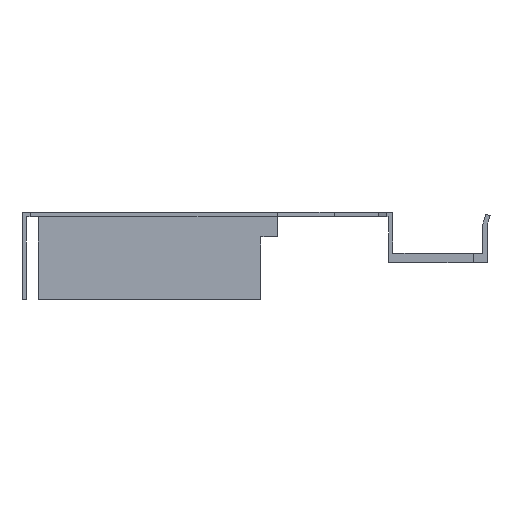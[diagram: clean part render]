
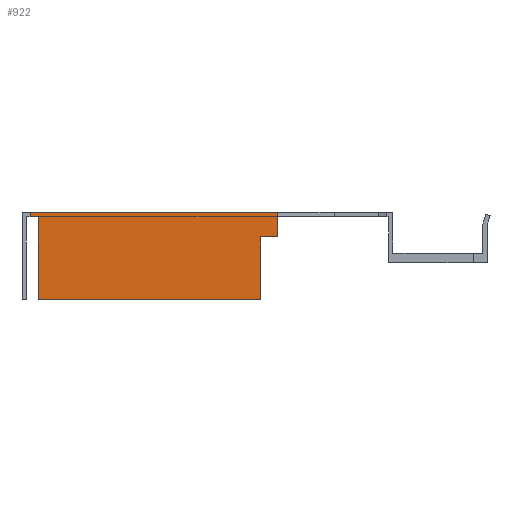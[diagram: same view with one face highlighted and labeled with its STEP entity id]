
A CAD part, left-side view. The second image highlights one B-rep face of the part: STEP entity #922.
In plain terms, the highlighted planar face has unit normal (-1, 0, 0).
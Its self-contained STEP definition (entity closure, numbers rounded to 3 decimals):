
#26 = VERTEX_POINT ( 'NONE', #100 ) ;
#35 = VERTEX_POINT ( 'NONE', #109 ) ;
#46 = VERTEX_POINT ( 'NONE', #120 ) ;
#56 = VERTEX_POINT ( 'NONE', #130 ) ;
#66 = VERTEX_POINT ( 'NONE', #140 ) ;
#67 = VERTEX_POINT ( 'NONE', #141 ) ;
#68 = VERTEX_POINT ( 'NONE', #142 ) ;
#69 = VERTEX_POINT ( 'NONE', #143 ) ;
#100 = CARTESIAN_POINT ( 'NONE',  ( -813., 66.5, 7.5 ) ) ;
#109 = CARTESIAN_POINT ( 'NONE',  ( -813., 21.2, 7.5 ) ) ;
#120 = CARTESIAN_POINT ( 'NONE',  ( -813., 66.5, 6.7 ) ) ;
#130 = CARTESIAN_POINT ( 'NONE',  ( -813., 65., 6.7 ) ) ;
#140 = CARTESIAN_POINT ( 'NONE',  ( -813., 65., -8.5 ) ) ;
#141 = CARTESIAN_POINT ( 'NONE',  ( -813., 24.2, -8.5 ) ) ;
#142 = CARTESIAN_POINT ( 'NONE',  ( -813., 24.2, 3. ) ) ;
#143 = CARTESIAN_POINT ( 'NONE',  ( -813., 21.2, 3. ) ) ;
#192 = CARTESIAN_POINT ( 'NONE',  ( -813., 0., 7.5 ) ) ;
#195 = DIRECTION ( 'NONE',  ( 0., -1., 0. ) ) ;
#240 = CARTESIAN_POINT ( 'NONE',  ( -813., 0.8, 6.7 ) ) ;
#241 = DIRECTION ( 'NONE',  ( 0., 1., 0. ) ) ;
#303 = CARTESIAN_POINT ( 'NONE',  ( -813., 24.2, -8.5 ) ) ;
#304 = DIRECTION ( 'NONE',  ( 0., 0., 1. ) ) ;
#331 = CARTESIAN_POINT ( 'NONE',  ( -813., 65., -8.5 ) ) ;
#332 = DIRECTION ( 'NONE',  ( 0., -1., 0. ) ) ;
#333 = CARTESIAN_POINT ( 'NONE',  ( -813., 21.2, 0. ) ) ;
#334 = DIRECTION ( 'NONE',  ( 0., 0., -1. ) ) ;
#337 = CARTESIAN_POINT ( 'NONE',  ( -813., 65., 7.5 ) ) ;
#338 = DIRECTION ( 'NONE',  ( 0., 0., -1. ) ) ;
#339 = CARTESIAN_POINT ( 'NONE',  ( -813., 66.5, 6.7 ) ) ;
#340 = DIRECTION ( 'NONE',  ( 0., 0., 1. ) ) ;
#341 = CARTESIAN_POINT ( 'NONE',  ( -813., 24.2, 3. ) ) ;
#342 = DIRECTION ( 'NONE',  ( 0., -1., 0. ) ) ;
#519 = PLANE ( 'NONE',  #868 ) ;
#522 = CARTESIAN_POINT ( 'NONE',  ( -813., -16.5, 0. ) ) ;
#528 = DIRECTION ( 'NONE',  ( -1., 0., 0. ) ) ;
#529 = DIRECTION ( 'NONE',  ( 0., 0., 1. ) ) ;
#711 = EDGE_CURVE ( 'NONE', #26, #35, #973, .T. ) ;
#734 = EDGE_CURVE ( 'NONE', #56, #46, #1201, .T. ) ;
#764 = EDGE_CURVE ( 'NONE', #67, #68, #1146, .T. ) ;
#778 = EDGE_CURVE ( 'NONE', #66, #67, #1496, .T. ) ;
#779 = EDGE_CURVE ( 'NONE', #35, #69, #1498, .T. ) ;
#781 = EDGE_CURVE ( 'NONE', #56, #66, #1502, .T. ) ;
#782 = EDGE_CURVE ( 'NONE', #46, #26, #1504, .T. ) ;
#783 = EDGE_CURVE ( 'NONE', #68, #69, #1506, .T. ) ;
#868 = AXIS2_PLACEMENT_3D ( 'NONE', #522, #528, #529 ) ;
#922 = ADVANCED_FACE ( 'NONE', ( #1634 ), #519, .T. ) ;
#964 = VECTOR ( 'NONE', #195, 1000. ) ;
#973 = LINE ( 'NONE', #192, #964 ) ;
#1008 = EDGE_LOOP ( 'NONE', ( #1302, #1272, #1439, #1423, #1401, #1361, #1457, #1389 ) ) ;
#1144 = VECTOR ( 'NONE', #304, 1000. ) ;
#1146 = LINE ( 'NONE', #303, #1144 ) ;
#1200 = VECTOR ( 'NONE', #241, 1000. ) ;
#1201 = LINE ( 'NONE', #240, #1200 ) ;
#1272 = ORIENTED_EDGE ( 'NONE', *, *, #734, .F. ) ;
#1302 = ORIENTED_EDGE ( 'NONE', *, *, #782, .F. ) ;
#1361 = ORIENTED_EDGE ( 'NONE', *, *, #783, .T. ) ;
#1389 = ORIENTED_EDGE ( 'NONE', *, *, #711, .F. ) ;
#1401 = ORIENTED_EDGE ( 'NONE', *, *, #764, .T. ) ;
#1423 = ORIENTED_EDGE ( 'NONE', *, *, #778, .T. ) ;
#1439 = ORIENTED_EDGE ( 'NONE', *, *, #781, .T. ) ;
#1457 = ORIENTED_EDGE ( 'NONE', *, *, #779, .F. ) ;
#1496 = LINE ( 'NONE', #331, #1497 ) ;
#1497 = VECTOR ( 'NONE', #332, 1000. ) ;
#1498 = LINE ( 'NONE', #333, #1499 ) ;
#1499 = VECTOR ( 'NONE', #334, 1000. ) ;
#1502 = LINE ( 'NONE', #337, #1503 ) ;
#1503 = VECTOR ( 'NONE', #338, 1000. ) ;
#1504 = LINE ( 'NONE', #339, #1505 ) ;
#1505 = VECTOR ( 'NONE', #340, 1000. ) ;
#1506 = LINE ( 'NONE', #341, #1507 ) ;
#1507 = VECTOR ( 'NONE', #342, 1000. ) ;
#1634 = FACE_OUTER_BOUND ( 'NONE', #1008, .T. ) ;
